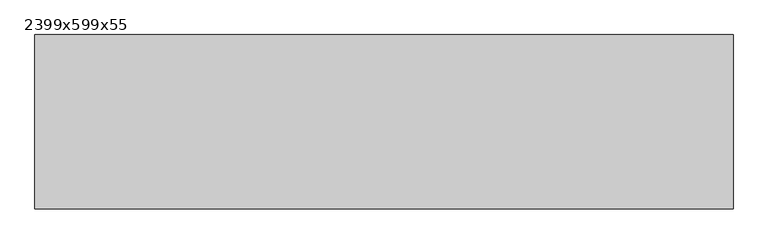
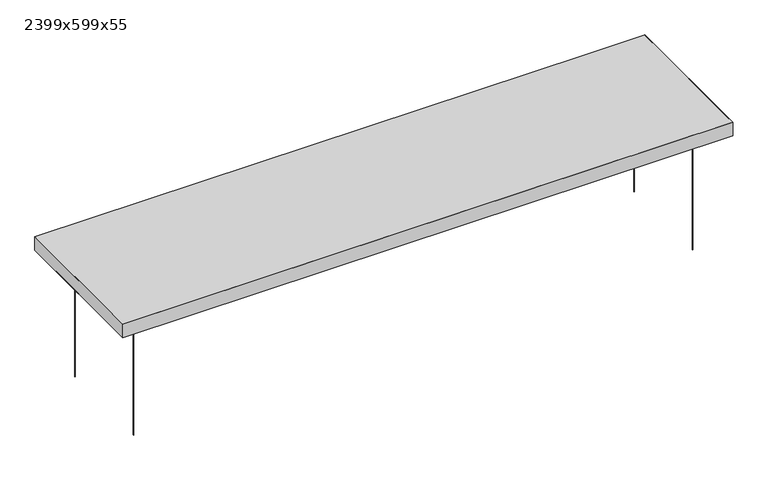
"""IFC4 building model written with IfcOpenShell, lengths in millimetres: proxy geometry, Texaa Panneaux_acoustiques Stereo suspendus_séparés : 2399x599x55."""

from ifc_helpers import new_model, si_unit, point, frame, frame_2d, origin, origin_with_axes, place, context, project, spatial, polyline, circle_curve, trimmed, segment, composite_curve, outline, extrude, faceted_brep, source, transform, mapped, element, save


def proxy_2399x599x55_34f713ed(model_context):
    return source(origin(), model_context, "Body", "SolidModel", [
        extrude(outline(composite_curve([segment(trimmed(circle_curve(frame_2d((-1099.5, -199.5)), 0.75), [point((-1100.25, -199.5))], [point((-1098.75, -199.5))], False, "CARTESIAN"), True, "CONTINUOUS"), segment(trimmed(circle_curve(frame_2d((-1099.5, -199.5)), 0.75), [point((-1098.75, -199.5))], [point((-1100.25, -199.5))], False, "CARTESIAN"), True, "CONTINUOUS")], self_intersect=False)), origin_with_axes(), (0.0, 0.0, 1.0), 500.0),
        extrude(outline(composite_curve([segment(trimmed(circle_curve(frame_2d((1099.5, -199.5)), 0.75), [point((1098.75, -199.5))], [point((1100.25, -199.5))], False, "CARTESIAN"), True, "CONTINUOUS"), segment(trimmed(circle_curve(frame_2d((1099.5, -199.5)), 0.75), [point((1100.25, -199.5))], [point((1098.75, -199.5))], False, "CARTESIAN"), True, "CONTINUOUS")], self_intersect=False)), origin_with_axes(), (0.0, 0.0, 1.0), 500.0),
        extrude(outline(composite_curve([segment(trimmed(circle_curve(frame_2d((1099.5, 199.5)), 0.75), [point((1098.75, 199.5))], [point((1100.25, 199.5))], False, "CARTESIAN"), True, "CONTINUOUS"), segment(trimmed(circle_curve(frame_2d((1099.5, 199.5)), 0.75), [point((1100.25, 199.5))], [point((1098.75, 199.5))], False, "CARTESIAN"), True, "CONTINUOUS")], self_intersect=False)), origin_with_axes(), (0.0, 0.0, 1.0), 500.0),
        extrude(outline(composite_curve([segment(trimmed(circle_curve(frame_2d((-1099.5, 199.5)), 0.75), [point((-1100.25, 199.5))], [point((-1098.75, 199.5))], False, "CARTESIAN"), True, "CONTINUOUS"), segment(trimmed(circle_curve(frame_2d((-1099.5, 199.5)), 0.75), [point((-1098.75, 199.5))], [point((-1100.25, 199.5))], False, "CARTESIAN"), True, "CONTINUOUS")], self_intersect=False)), origin_with_axes(), (0.0, 0.0, 1.0), 500.0),
        extrude(outline(polyline([(-1198.5, -298.5), (-1198.5, 298.5), (1198.5, 298.5), (1198.5, -298.5), (-1198.5, -298.5)])), frame((0.0, 0.0, 501.0), z_axis=(0.0, 0.0, 1.0), x_axis=(1.0, 0.0, 0.0)), (0.0, 0.0, 1.0), 53.0),
        faceted_brep([(1199.5, 299.5, 555.0), (1195.3720354, 299.5, 555.0), (972.4619462, 299.5, 555.0), (-1199.5, 299.5, 555.0), (-1199.5, -242.8114655, 555.0), (-1199.5, -298.4692994, 555.0), (-1199.5, -299.5, 555.0), (1199.5, -299.5, 555.0), (-1199.5, -299.5, 500.0), (-1199.5, 299.5, 500.0), (1199.5, 299.5, 500.0), (1199.5, -299.5, 500.0), (-1149.5, 249.5, 500.0), (-1149.5, -249.5, 500.0), (1149.5, -249.5, 500.0), (1149.5, 249.5, 500.0), (-1199.5, -299.5, 554.0), (1199.5, 299.5, 554.0), (1149.5, 249.5, 501.0), (-1149.5, 249.5, 501.0), (1149.5, -249.5, 501.0), (-1149.5, -249.5, 501.0), (1198.5, -298.5, 554.0), (-1195.4949917, -298.5, 554.0), (-1198.5, -298.5, 554.0), (-1198.5, -298.219612, 554.0), (-1198.5, -242.5617781, 554.0), (-1198.5, 298.5, 554.0), (968.4569378, 298.5, 554.0), (1191.367027, 298.5, 554.0), (1195.4949917, 298.5, 554.0), (1198.5, 298.5, 554.0), (-1198.5, -298.5, 501.0), (1198.5, -298.5, 501.0), (1198.5, 298.5, 501.0), (-1198.5, 298.5, 501.0)], [[[0, 1, 2, 3, 4, 5, 6, 7]], [[8, 9, 10, 11], [12, 13, 14, 15]], [[8, 16, 6, 5, 4, 3, 9]], [[9, 3, 2, 1, 0, 17, 10]], [[7, 11, 10, 17, 0]], [[6, 16, 8, 11, 7]], [[12, 15, 18, 19]], [[15, 14, 20, 18]], [[14, 13, 21, 20]], [[19, 21, 13, 12]], [[22, 23, 24, 25, 26, 27, 28, 29, 30, 31]], [[32, 33, 34, 35], [18, 20, 21, 19]], [[35, 27, 26, 25, 24, 32]], [[34, 31, 30, 29, 28, 27, 35]], [[31, 34, 33, 22]], [[32, 24, 23, 22, 33]]]),
    ])


if __name__ == "__main__":
    model = new_model("IFC4")
    model_context = context("Model", 3, world=origin())
    ifc_project = project(units=[si_unit("LENGTHUNIT", "METRE", prefix="MILLI")], contexts=[model_context])
    site = spatial("IfcSite", under=ifc_project)
    building = spatial("IfcBuilding", under=site)
    placement = place(None, origin())
    proxy_2399x599x55_shape = proxy_2399x599x55_34f713ed(model_context)
    element("IfcBuildingElementProxy", 1, Name="Texaa Panneaux_acoustiques Stereo suspendus_séparés : 2399x599x55", ObjectType="Texaa Panneaux_acoustiques Stereo suspendus_séparés : 2399x599x55", at=placement, inside=building, context=model_context, shape_type="MappedRepresentation", body=[
        mapped(proxy_2399x599x55_shape, transform((0.0, 0.0, 0.0), x_axis=(1.0, 0.0, 0.0), y_axis=(0.0, 1.0, 0.0), z_axis=(0.0, 0.0, 1.0))),
    ])
    save(model, "model.ifc")
